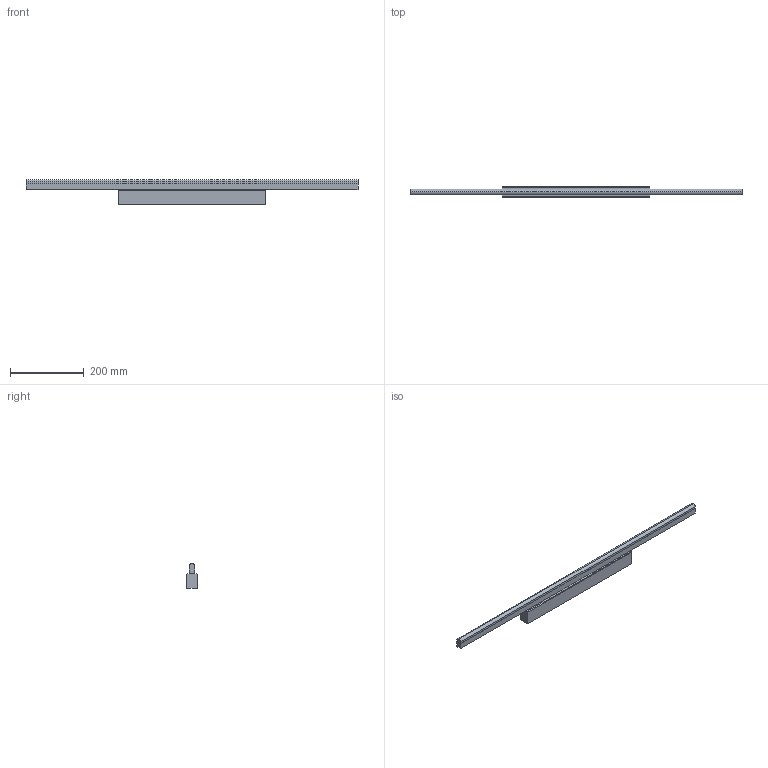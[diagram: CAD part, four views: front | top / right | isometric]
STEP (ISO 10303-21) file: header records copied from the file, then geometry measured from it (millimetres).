
FILE_DESCRIPTION (( 'STEP AP203' ), '1' );
FILE_NAME ('TAB LED 9596 3D MODEL.STEP', '2016-10-04T15:45:46', ( 'Utente' ), ( '' ), 'SwSTEP 2.0', 'SolidWorks 2016', '' );
FILE_SCHEMA (( 'CONFIG_CONTROL_DESIGN' ));
Length unit declared in the file: millimetre
Products named in the file (1): TAB LED 9596 3D MODEL
Bounding box: 900 x 27.96 x 67.51 mm (x, y, z)
Volume: 799742.2 mm3; surface area: 116020.2 mm2
Topology: 1 solids, 1 shells, 21 faces, 53 edges, 34 vertices
Faces by surface type: plane 17, cylinder 4
Entity records: 700 total; most frequent: CARTESIAN_POINT 109, ORIENTED_EDGE 106, DIRECTION 105, EDGE_CURVE 53, VECTOR 45, LINE 45, VERTEX_POINT 34, AXIS2_PLACEMENT_3D 30
